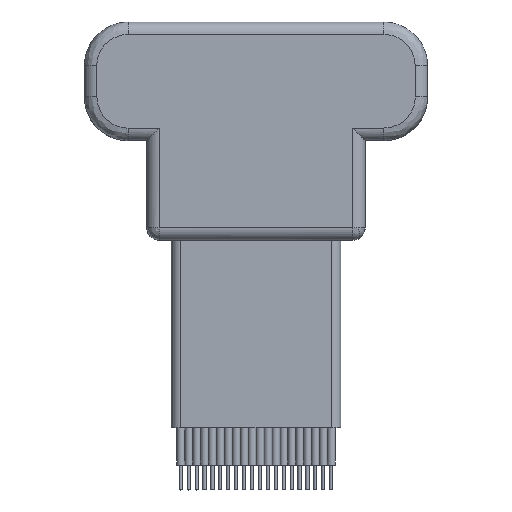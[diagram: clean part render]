
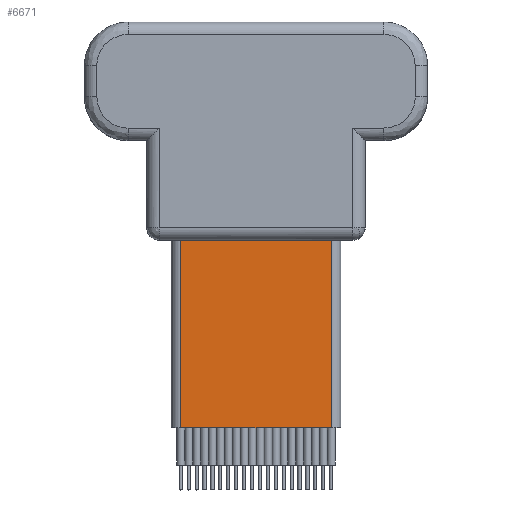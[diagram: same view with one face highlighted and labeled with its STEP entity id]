
A CAD part, top view. The second image highlights one B-rep face of the part: STEP entity #6671.
In plain terms, the highlighted planar face has unit normal (0, 0, 1) as drawn and (0, 1, 0) by its records, which use the part's own axes.
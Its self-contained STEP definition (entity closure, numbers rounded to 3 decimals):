
#584 = CARTESIAN_POINT ( 'NONE',  ( -6.03, 0.76, 15. ) ) ;
#1512 = DIRECTION ( 'NONE',  ( 1., 0., 0. ) ) ;
#1715 = AXIS2_PLACEMENT_3D ( 'NONE', #14163, #15589, #1512 ) ;
#1926 = VECTOR ( 'NONE', #18699, 1000. ) ;
#2686 = CARTESIAN_POINT ( 'NONE',  ( -6.03, 0.76, 0. ) ) ;
#3283 = EDGE_CURVE ( 'NONE', #5293, #11980, #20454, .T. ) ;
#4015 = ORIENTED_EDGE ( 'NONE', *, *, #6673, .T. ) ;
#5293 = VERTEX_POINT ( 'NONE', #21055 ) ;
#6647 = DIRECTION ( 'NONE',  ( -1., 0., 0. ) ) ;
#6671 = ADVANCED_FACE ( 'NONE', ( #10403 ), #8759, .F. ) ;
#6673 = EDGE_CURVE ( 'NONE', #9111, #11980, #8658, .T. ) ;
#7749 = EDGE_CURVE ( 'NONE', #15402, #9111, #8836, .T. ) ;
#8658 = LINE ( 'NONE', #22717, #21549 ) ;
#8759 = PLANE ( 'NONE',  #1715 ) ;
#8836 = LINE ( 'NONE', #21038, #14956 ) ;
#9111 = VERTEX_POINT ( 'NONE', #10417 ) ;
#9657 = VECTOR ( 'NONE', #13111, 1000. ) ;
#10135 = EDGE_CURVE ( 'NONE', #15402, #5293, #22377, .T. ) ;
#10403 = FACE_OUTER_BOUND ( 'NONE', #22061, .T. ) ;
#10417 = CARTESIAN_POINT ( 'NONE',  ( 6.03, 0.76, 0. ) ) ;
#11980 = VERTEX_POINT ( 'NONE', #2686 ) ;
#12695 = ORIENTED_EDGE ( 'NONE', *, *, #3283, .F. ) ;
#12797 = ORIENTED_EDGE ( 'NONE', *, *, #7749, .T. ) ;
#13111 = DIRECTION ( 'NONE',  ( -1., 0., 0. ) ) ;
#13370 = ORIENTED_EDGE ( 'NONE', *, *, #10135, .F. ) ;
#14163 = CARTESIAN_POINT ( 'NONE',  ( -6.03, 0.76, 15. ) ) ;
#14573 = CARTESIAN_POINT ( 'NONE',  ( 6.03, 0.76, 15. ) ) ;
#14956 = VECTOR ( 'NONE', #17544, 1000. ) ;
#15402 = VERTEX_POINT ( 'NONE', #14573 ) ;
#15589 = DIRECTION ( 'NONE',  ( 0., -1., 0. ) ) ;
#17544 = DIRECTION ( 'NONE',  ( 0., 0., -1. ) ) ;
#18478 = CARTESIAN_POINT ( 'NONE',  ( -6.03, 0.76, 15. ) ) ;
#18699 = DIRECTION ( 'NONE',  ( 0., 0., -1. ) ) ;
#20454 = LINE ( 'NONE', #18478, #1926 ) ;
#21038 = CARTESIAN_POINT ( 'NONE',  ( 6.03, 0.76, 15. ) ) ;
#21055 = CARTESIAN_POINT ( 'NONE',  ( -6.03, 0.76, 15. ) ) ;
#21549 = VECTOR ( 'NONE', #6647, 1000. ) ;
#22061 = EDGE_LOOP ( 'NONE', ( #4015, #12695, #13370, #12797 ) ) ;
#22377 = LINE ( 'NONE', #584, #9657 ) ;
#22717 = CARTESIAN_POINT ( 'NONE',  ( -6.03, 0.76, 0. ) ) ;
